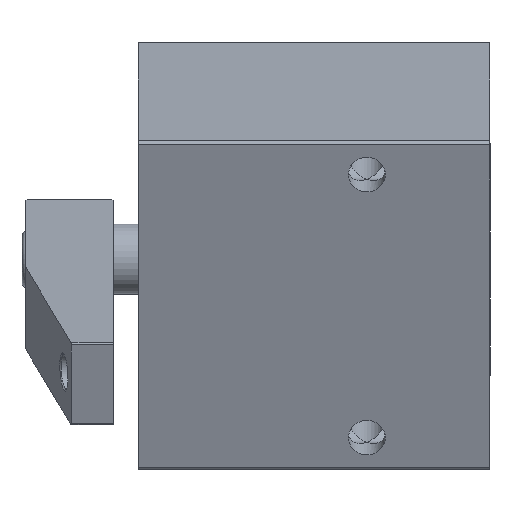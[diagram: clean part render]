
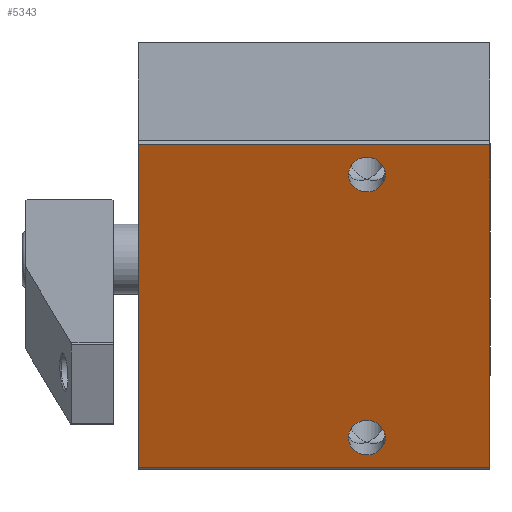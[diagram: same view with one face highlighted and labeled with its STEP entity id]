
A CAD part, left-side view. The second image highlights one B-rep face of the part: STEP entity #5343.
In plain terms, the highlighted planar face has unit normal (-0.934, 0, -0.356) as drawn and (1, 0, 0) by its records, which use the part's own axes.
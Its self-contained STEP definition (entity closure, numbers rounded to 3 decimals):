
#236=FACE_BOUND('',#1329,.T.);
#237=FACE_BOUND('',#1330,.T.);
#334=PLANE('',#5952);
#447=CIRCLE('',#5771,5.25);
#448=CIRCLE('',#5776,5.25);
#449=CIRCLE('',#5778,5.25);
#450=CIRCLE('',#5783,5.25);
#1009=FACE_OUTER_BOUND('',#1328,.T.);
#1328=EDGE_LOOP('',(#4196,#4197,#4198,#4199));
#1329=EDGE_LOOP('',(#4200,#4201));
#1330=EDGE_LOOP('',(#4202,#4203));
#1699=LINE('',#10761,#1965);
#1702=LINE('',#10766,#1968);
#1704=LINE('',#10770,#1970);
#1706=LINE('',#10773,#1972);
#1965=VECTOR('',#7040,1000.);
#1968=VECTOR('',#7045,1000.);
#1970=VECTOR('',#7049,1000.);
#1972=VECTOR('',#7053,1000.);
#2265=VERTEX_POINT('',#10268);
#2266=VERTEX_POINT('',#10269);
#2271=VERTEX_POINT('',#10282);
#2272=VERTEX_POINT('',#10283);
#2414=VERTEX_POINT('',#10759);
#2415=VERTEX_POINT('',#10760);
#2416=VERTEX_POINT('',#10765);
#2417=VERTEX_POINT('',#10769);
#2868=EDGE_CURVE('',#2265,#2266,#447,.T.);
#2874=EDGE_CURVE('',#2266,#2265,#448,.T.);
#2875=EDGE_CURVE('',#2271,#2272,#449,.T.);
#2881=EDGE_CURVE('',#2272,#2271,#450,.T.);
#3080=EDGE_CURVE('',#2414,#2415,#1699,.T.);
#3083=EDGE_CURVE('',#2415,#2416,#1702,.T.);
#3085=EDGE_CURVE('',#2416,#2417,#1704,.T.);
#3087=EDGE_CURVE('',#2417,#2414,#1706,.T.);
#4196=ORIENTED_EDGE('',*,*,#3085,.F.);
#4197=ORIENTED_EDGE('',*,*,#3083,.F.);
#4198=ORIENTED_EDGE('',*,*,#3080,.F.);
#4199=ORIENTED_EDGE('',*,*,#3087,.F.);
#4200=ORIENTED_EDGE('',*,*,#2868,.F.);
#4201=ORIENTED_EDGE('',*,*,#2874,.F.);
#4202=ORIENTED_EDGE('',*,*,#2875,.F.);
#4203=ORIENTED_EDGE('',*,*,#2881,.F.);
#5343=ADVANCED_FACE('',(#1009,#236,#237),#334,.F.);
#5771=AXIS2_PLACEMENT_3D('',#10270,#6586,#6587);
#5776=AXIS2_PLACEMENT_3D('',#10280,#6597,#6598);
#5778=AXIS2_PLACEMENT_3D('',#10284,#6601,#6602);
#5783=AXIS2_PLACEMENT_3D('',#10294,#6612,#6613);
#5952=AXIS2_PLACEMENT_3D('',#10774,#7054,#7055);
#6586=DIRECTION('center_axis',(1.,0.,0.));
#6587=DIRECTION('ref_axis',(0.,-1.,0.));
#6597=DIRECTION('center_axis',(1.,0.,0.));
#6598=DIRECTION('ref_axis',(0.,-1.,0.));
#6601=DIRECTION('center_axis',(1.,0.,0.));
#6602=DIRECTION('ref_axis',(0.,-1.,0.));
#6612=DIRECTION('center_axis',(1.,0.,0.));
#6613=DIRECTION('ref_axis',(0.,-1.,0.));
#7040=DIRECTION('',(0.,0.,1.));
#7045=DIRECTION('',(0.,1.,0.));
#7049=DIRECTION('',(0.,0.,-1.));
#7053=DIRECTION('',(0.,-1.,0.));
#7054=DIRECTION('center_axis',(-1.,0.,0.));
#7055=DIRECTION('ref_axis',(0.,-1.,0.));
#10268=CARTESIAN_POINT('',(1244.576,490.467,35.));
#10269=CARTESIAN_POINT('',(1244.576,500.967,35.));
#10270=CARTESIAN_POINT('Origin',(1244.576,495.717,35.));
#10280=CARTESIAN_POINT('Origin',(1244.576,495.717,35.));
#10282=CARTESIAN_POINT('',(1244.576,410.467,35.));
#10283=CARTESIAN_POINT('',(1244.576,420.967,35.));
#10284=CARTESIAN_POINT('Origin',(1244.576,415.717,35.));
#10294=CARTESIAN_POINT('Origin',(1244.576,415.717,35.));
#10759=CARTESIAN_POINT('',(1244.576,406.717,0.));
#10760=CARTESIAN_POINT('',(1244.576,406.717,100.));
#10761=CARTESIAN_POINT('',(1244.576,406.717,100.));
#10765=CARTESIAN_POINT('',(1244.576,504.717,100.));
#10766=CARTESIAN_POINT('',(1244.576,406.717,100.));
#10769=CARTESIAN_POINT('',(1244.576,504.717,0.));
#10770=CARTESIAN_POINT('',(1244.576,504.717,100.));
#10773=CARTESIAN_POINT('',(1244.576,406.717,0.));
#10774=CARTESIAN_POINT('Origin',(1244.576,406.717,100.));
